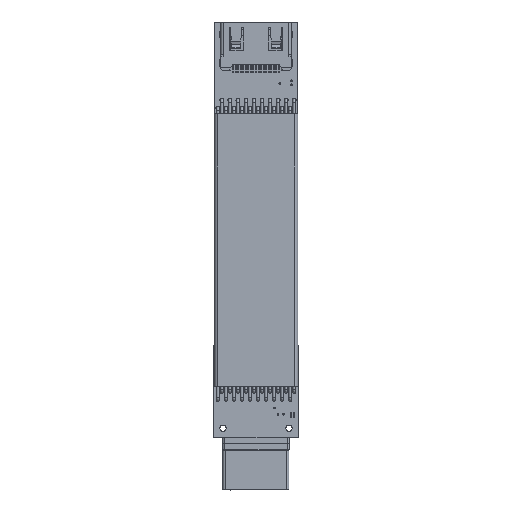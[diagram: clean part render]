
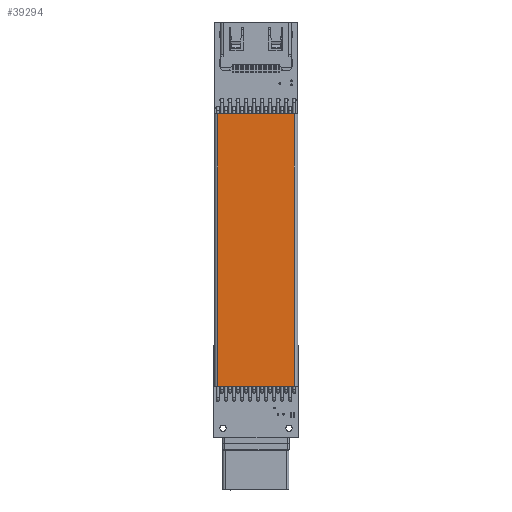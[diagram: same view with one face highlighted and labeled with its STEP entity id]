
A CAD part, top view. The second image highlights one B-rep face of the part: STEP entity #39294.
In plain terms, the highlighted planar face has unit normal (0, 0, 1) as drawn and (0, 1, 0) by its records, which use the part's own axes.
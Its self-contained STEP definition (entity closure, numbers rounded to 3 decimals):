
#39266 = VERTEX_POINT('',#39267);
#39267 = CARTESIAN_POINT('',(0.,0.,
    0.));
#39274 = EDGE_CURVE('',#39275,#39266,#39277,.T.);
#39275 = VERTEX_POINT('',#39276);
#39276 = CARTESIAN_POINT('',(0.,0.,
    -43.));
#39277 = LINE('',#39278,#39279);
#39278 = CARTESIAN_POINT('',(0.,0.,
    -43.));
#39279 = VECTOR('',#39280,1.);
#39280 = DIRECTION('',(0.,0.,1.));
#39294 = ADVANCED_FACE('',(#39295),#39320,.T.);
#39295 = FACE_BOUND('',#39296,.T.);
#39296 = EDGE_LOOP('',(#39297,#39305,#39313,#39319));
#39297 = ORIENTED_EDGE('',*,*,#39298,.F.);
#39298 = EDGE_CURVE('',#39299,#39266,#39301,.T.);
#39299 = VERTEX_POINT('',#39300);
#39300 = CARTESIAN_POINT('',(12.065,0.,0.
    ));
#39301 = LINE('',#39302,#39303);
#39302 = CARTESIAN_POINT('',(0.,0.,
    0.));
#39303 = VECTOR('',#39304,1.);
#39304 = DIRECTION('',(-1.,0.,0.));
#39305 = ORIENTED_EDGE('',*,*,#39306,.F.);
#39306 = EDGE_CURVE('',#39307,#39299,#39309,.T.);
#39307 = VERTEX_POINT('',#39308);
#39308 = CARTESIAN_POINT('',(12.065,0.,-43.));
#39309 = LINE('',#39310,#39311);
#39310 = CARTESIAN_POINT('',(12.065,0.,-43.));
#39311 = VECTOR('',#39312,1.);
#39312 = DIRECTION('',(0.,0.,1.));
#39313 = ORIENTED_EDGE('',*,*,#39314,.T.);
#39314 = EDGE_CURVE('',#39307,#39275,#39315,.T.);
#39315 = LINE('',#39316,#39317);
#39316 = CARTESIAN_POINT('',(0.,0.,
    -43.));
#39317 = VECTOR('',#39318,1.);
#39318 = DIRECTION('',(-1.,0.,0.));
#39319 = ORIENTED_EDGE('',*,*,#39274,.T.);
#39320 = PLANE('',#39321);
#39321 = AXIS2_PLACEMENT_3D('',#39322,#39323,#39324);
#39322 = CARTESIAN_POINT('',(0.,0.,
    -43.));
#39323 = DIRECTION('',(0.,1.,0.));
#39324 = DIRECTION('',(0.,0.,1.));
